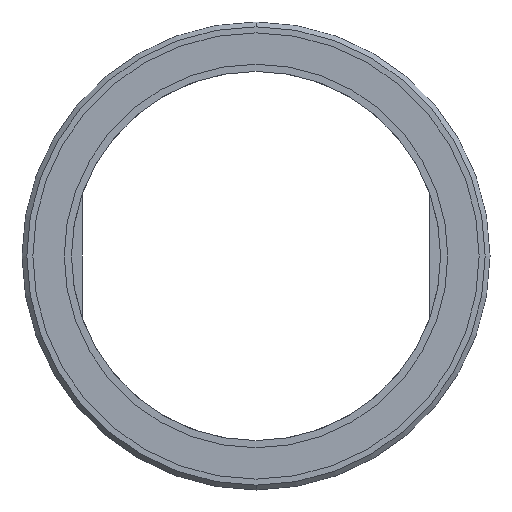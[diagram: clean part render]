
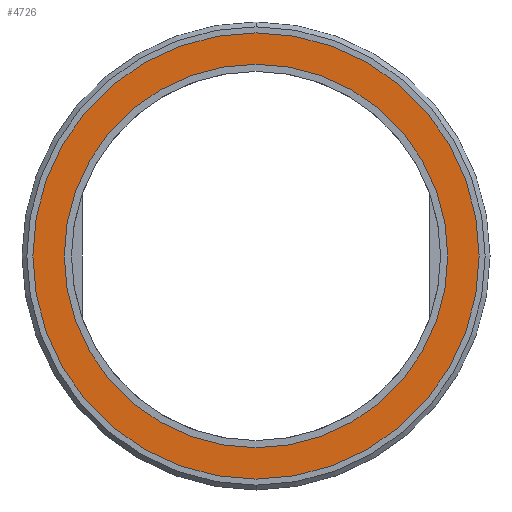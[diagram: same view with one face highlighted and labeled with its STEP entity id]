
A CAD part, front view. The second image highlights one B-rep face of the part: STEP entity #4726.
In plain terms, the highlighted planar face has unit normal (0, -1, 0).
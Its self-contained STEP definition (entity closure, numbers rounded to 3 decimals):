
#39 = EDGE_CURVE ( 'NONE', #3287, #3170, #1392, .T. ) ;
#96 = EDGE_LOOP ( 'NONE', ( #5155, #4530 ) ) ;
#435 = CARTESIAN_POINT ( 'NONE',  ( 0., 3.5, -46.25 ) ) ;
#621 = ORIENTED_EDGE ( 'NONE', *, *, #961, .F. ) ;
#623 = CIRCLE ( 'NONE', #1425, 39.75 ) ;
#861 = CIRCLE ( 'NONE', #2110, 46.25 ) ;
#961 = EDGE_CURVE ( 'NONE', #3170, #3287, #623, .T. ) ;
#1080 = DIRECTION ( 'NONE',  ( 0., 0., -1. ) ) ;
#1390 = CARTESIAN_POINT ( 'NONE',  ( 0., 3.5, 39.75 ) ) ;
#1392 = CIRCLE ( 'NONE', #5215, 39.75 ) ;
#1425 = AXIS2_PLACEMENT_3D ( 'NONE', #1512, #3671, #2340 ) ;
#1437 = CARTESIAN_POINT ( 'NONE',  ( 0., 3.5, 0. ) ) ;
#1469 = AXIS2_PLACEMENT_3D ( 'NONE', #2242, #5259, #1080 ) ;
#1512 = CARTESIAN_POINT ( 'NONE',  ( 0., 3.5, 0. ) ) ;
#1761 = CARTESIAN_POINT ( 'NONE',  ( 0., 3.5, 0. ) ) ;
#2050 = EDGE_CURVE ( 'NONE', #3665, #2254, #3870, .T. ) ;
#2110 = AXIS2_PLACEMENT_3D ( 'NONE', #1761, #5474, #4207 ) ;
#2201 = DIRECTION ( 'NONE',  ( 0., -1., 0. ) ) ;
#2242 = CARTESIAN_POINT ( 'NONE',  ( 0., 3.5, 0. ) ) ;
#2254 = VERTEX_POINT ( 'NONE', #435 ) ;
#2299 = PLANE ( 'NONE',  #2530 ) ;
#2340 = DIRECTION ( 'NONE',  ( 0., 0., -1. ) ) ;
#2530 = AXIS2_PLACEMENT_3D ( 'NONE', #1437, #4439, #5194 ) ;
#2564 = CARTESIAN_POINT ( 'NONE',  ( 0., 3.5, 0. ) ) ;
#2726 = EDGE_CURVE ( 'NONE', #2254, #3665, #861, .T. ) ;
#3060 = ORIENTED_EDGE ( 'NONE', *, *, #39, .F. ) ;
#3116 = FACE_OUTER_BOUND ( 'NONE', #96, .T. ) ;
#3138 = CARTESIAN_POINT ( 'NONE',  ( 0., 3.5, 46.25 ) ) ;
#3170 = VERTEX_POINT ( 'NONE', #1390 ) ;
#3287 = VERTEX_POINT ( 'NONE', #4801 ) ;
#3508 = EDGE_LOOP ( 'NONE', ( #3060, #621 ) ) ;
#3665 = VERTEX_POINT ( 'NONE', #3138 ) ;
#3671 = DIRECTION ( 'NONE',  ( 0., -1., 0. ) ) ;
#3870 = CIRCLE ( 'NONE', #1469, 46.25 ) ;
#4207 = DIRECTION ( 'NONE',  ( 0., 0., -1. ) ) ;
#4382 = FACE_BOUND ( 'NONE', #3508, .T. ) ;
#4439 = DIRECTION ( 'NONE',  ( 0., -1., 0. ) ) ;
#4530 = ORIENTED_EDGE ( 'NONE', *, *, #2050, .T. ) ;
#4726 = ADVANCED_FACE ( 'NONE', ( #4382, #3116 ), #2299, .T. ) ;
#4801 = CARTESIAN_POINT ( 'NONE',  ( 0., 3.5, -39.75 ) ) ;
#5128 = DIRECTION ( 'NONE',  ( 0., 0., -1. ) ) ;
#5155 = ORIENTED_EDGE ( 'NONE', *, *, #2726, .T. ) ;
#5194 = DIRECTION ( 'NONE',  ( 0., 0., -1. ) ) ;
#5215 = AXIS2_PLACEMENT_3D ( 'NONE', #2564, #2201, #5128 ) ;
#5259 = DIRECTION ( 'NONE',  ( 0., -1., 0. ) ) ;
#5474 = DIRECTION ( 'NONE',  ( 0., -1., 0. ) ) ;
